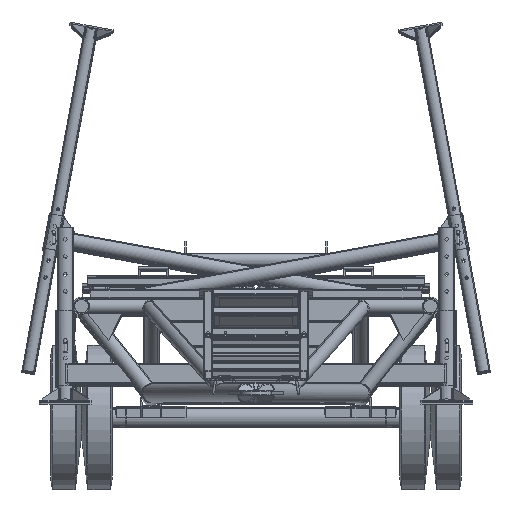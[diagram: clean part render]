
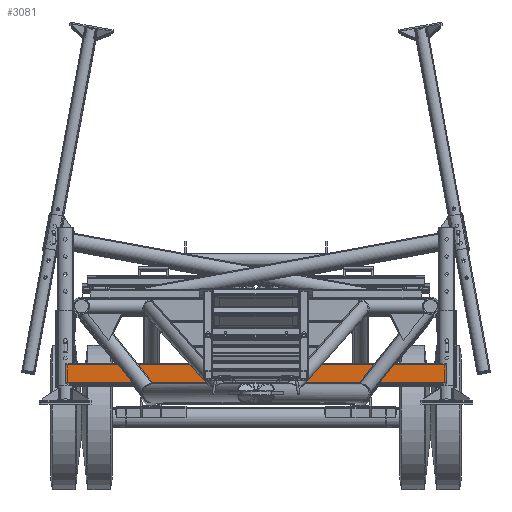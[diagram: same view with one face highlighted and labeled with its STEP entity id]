
A CAD part, top view. The second image highlights one B-rep face of the part: STEP entity #3081.
In plain terms, the highlighted planar face has unit normal (0, 0, 1).
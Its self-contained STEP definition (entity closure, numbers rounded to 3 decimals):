
#3081=ADVANCED_FACE('',(#50387),#50389,.T.);
#50387=FACE_BOUND('',#50388,.T.);
#50388=EDGE_LOOP('',(#91321,#91322,#91323,#91324));
#50389=PLANE('',#50390);
#50390=AXIS2_PLACEMENT_3D('',#50391,#50392,#50393);
#50391=CARTESIAN_POINT('',(1092.5,-437.5,-191.5));
#50392=DIRECTION('',(0.,0.,1.));
#50393=DIRECTION('',(0.,1.,0.));
#91321=ORIENTED_EDGE('',*,*,#115961,.T.);
#91322=ORIENTED_EDGE('',*,*,#115962,.T.);
#91323=ORIENTED_EDGE('',*,*,#115963,.F.);
#91324=ORIENTED_EDGE('',*,*,#115864,.F.);
#115864=EDGE_CURVE('',#128187,#128189,#128190,.T.);
#115961=EDGE_CURVE('',#128187,#128362,#128364,.T.);
#115962=EDGE_CURVE('',#128362,#128365,#128366,.T.);
#115963=EDGE_CURVE('',#128189,#128365,#128367,.T.);
#128187=VERTEX_POINT('',#149313);
#128189=VERTEX_POINT('',#149318);
#128190=LINE('',#149319,#149320);
#128362=VERTEX_POINT('',#150956);
#128364=LINE('',#150961,#150962);
#128365=VERTEX_POINT('',#150964);
#128366=LINE('',#150965,#150966);
#128367=LINE('',#150968,#150969);
#149313=CARTESIAN_POINT('',(1092.5,-437.5,-191.5));
#149318=CARTESIAN_POINT('',(-1092.5,-437.5,-191.5));
#149319=CARTESIAN_POINT('',(1092.5,-437.5,-191.5));
#149320=VECTOR('',#149321,1.);
#149321=DIRECTION('',(-1.,0.,0.));
#150956=CARTESIAN_POINT('',(1092.5,-335.5,-191.5));
#150961=CARTESIAN_POINT('',(1092.5,-437.5,-191.5));
#150962=VECTOR('',#150963,1.);
#150963=DIRECTION('',(0.,1.,0.));
#150964=CARTESIAN_POINT('',(-1092.5,-335.5,-191.5));
#150965=CARTESIAN_POINT('',(1092.5,-335.5,-191.5));
#150966=VECTOR('',#150967,1.);
#150967=DIRECTION('',(-1.,0.,0.));
#150968=CARTESIAN_POINT('',(-1092.5,-437.5,-191.5));
#150969=VECTOR('',#150970,1.);
#150970=DIRECTION('',(0.,1.,0.));
